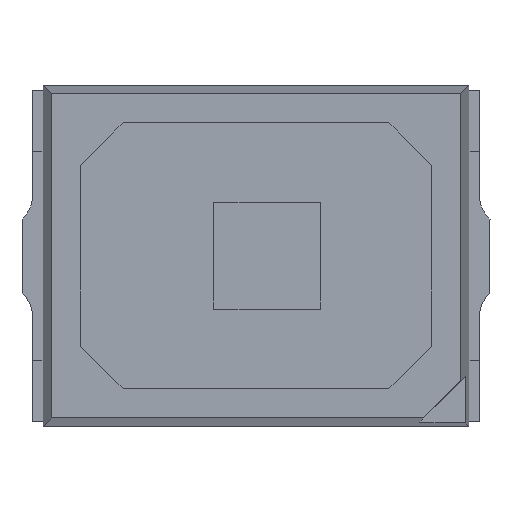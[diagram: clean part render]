
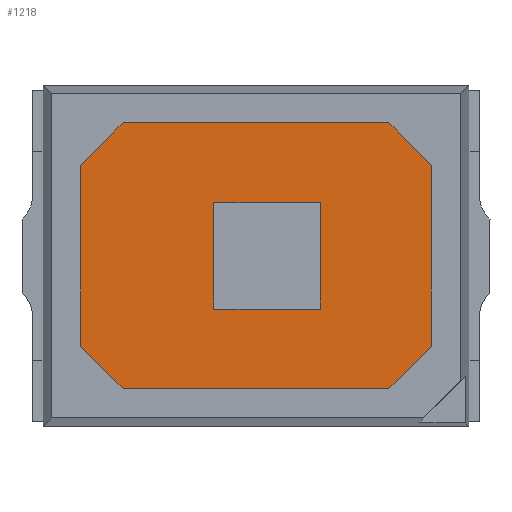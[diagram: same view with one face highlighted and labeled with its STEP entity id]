
A CAD part, top view. The second image highlights one B-rep face of the part: STEP entity #1218.
In plain terms, the highlighted planar face has unit normal (0, 0, 1).
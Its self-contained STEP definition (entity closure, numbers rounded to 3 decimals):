
#115 = FACE_BOUND ( 'NONE', #337, .T. ) ;
#219 = ORIENTED_EDGE ( 'NONE', *, *, #3087, .T. ) ;
#232 = CARTESIAN_POINT ( 'NONE',  ( 0.302, 0.25, 0.553 ) ) ;
#243 = CARTESIAN_POINT ( 'NONE',  ( -0.198, -0.25, 0.553 ) ) ;
#261 = CARTESIAN_POINT ( 'NONE',  ( 0.302, 0.25, 0.553 ) ) ;
#337 = EDGE_LOOP ( 'NONE', ( #4682, #1979, #3160, #6326 ) ) ;
#351 = VERTEX_POINT ( 'NONE', #524 ) ;
#381 = DIRECTION ( 'NONE',  ( -1., 0., 0. ) ) ;
#416 = VERTEX_POINT ( 'NONE', #5685 ) ;
#426 = CARTESIAN_POINT ( 'NONE',  ( -0.198, -0.25, 0.553 ) ) ;
#524 = CARTESIAN_POINT ( 'NONE',  ( -0.825, 0.425, 0.553 ) ) ;
#567 = DIRECTION ( 'NONE',  ( 1., 0., 0. ) ) ;
#686 = VECTOR ( 'NONE', #567, 1000. ) ;
#721 = VECTOR ( 'NONE', #5613, 1000. ) ;
#872 = CARTESIAN_POINT ( 'NONE',  ( -0.825, -0.425, 0.553 ) ) ;
#929 = EDGE_CURVE ( 'NONE', #5856, #3168, #3243, .T. ) ;
#945 = DIRECTION ( 'NONE',  ( 0., 1., 0. ) ) ;
#976 = LINE ( 'NONE', #2534, #4178 ) ;
#1003 = LINE ( 'NONE', #4641, #2887 ) ;
#1218 = ADVANCED_FACE ( 'NONE', ( #115, #6222 ), #2167, .T. ) ;
#1230 = ORIENTED_EDGE ( 'NONE', *, *, #4744, .T. ) ;
#1298 = ORIENTED_EDGE ( 'NONE', *, *, #2344, .T. ) ;
#1318 = LINE ( 'NONE', #6036, #2793 ) ;
#1352 = VECTOR ( 'NONE', #6320, 1000. ) ;
#1388 = VERTEX_POINT ( 'NONE', #4165 ) ;
#1392 = LINE ( 'NONE', #5534, #2355 ) ;
#1420 = DIRECTION ( 'NONE',  ( -0.707, -0.707, 0. ) ) ;
#1574 = CARTESIAN_POINT ( 'NONE',  ( 0.825, 0.425, 0.553 ) ) ;
#1579 = DIRECTION ( 'NONE',  ( -1., 0., 0. ) ) ;
#1635 = EDGE_CURVE ( 'NONE', #5566, #5230, #4444, .T. ) ;
#1636 = ORIENTED_EDGE ( 'NONE', *, *, #1635, .T. ) ;
#1917 = EDGE_CURVE ( 'NONE', #6123, #5856, #3814, .T. ) ;
#1955 = CARTESIAN_POINT ( 'NONE',  ( -0.625, 0.625, 0.553 ) ) ;
#1979 = ORIENTED_EDGE ( 'NONE', *, *, #1917, .F. ) ;
#2061 = DIRECTION ( 'NONE',  ( -0.707, 0.707, 0. ) ) ;
#2129 = DIRECTION ( 'NONE',  ( 0.707, 0.707, 0. ) ) ;
#2133 = ORIENTED_EDGE ( 'NONE', *, *, #2515, .T. ) ;
#2153 = ORIENTED_EDGE ( 'NONE', *, *, #5751, .T. ) ;
#2167 = PLANE ( 'NONE',  #5636 ) ;
#2344 = EDGE_CURVE ( 'NONE', #5719, #1388, #976, .T. ) ;
#2355 = VECTOR ( 'NONE', #1420, 1000. ) ;
#2356 = EDGE_CURVE ( 'NONE', #3168, #4390, #1003, .T. ) ;
#2479 = VECTOR ( 'NONE', #2129, 1000. ) ;
#2515 = EDGE_CURVE ( 'NONE', #1388, #416, #4086, .T. ) ;
#2534 = CARTESIAN_POINT ( 'NONE',  ( 0.825, -0.425, 0.553 ) ) ;
#2552 = VECTOR ( 'NONE', #4968, 1000. ) ;
#2793 = VECTOR ( 'NONE', #381, 1000. ) ;
#2864 = VERTEX_POINT ( 'NONE', #1955 ) ;
#2887 = VECTOR ( 'NONE', #3561, 1000. ) ;
#3076 = EDGE_CURVE ( 'NONE', #416, #2864, #1318, .T. ) ;
#3087 = EDGE_CURVE ( 'NONE', #2864, #351, #1392, .T. ) ;
#3160 = ORIENTED_EDGE ( 'NONE', *, *, #4093, .F. ) ;
#3168 = VERTEX_POINT ( 'NONE', #5711 ) ;
#3243 = LINE ( 'NONE', #5251, #3627 ) ;
#3561 = DIRECTION ( 'NONE',  ( 0., -1., 0. ) ) ;
#3605 = CARTESIAN_POINT ( 'NONE',  ( 0.825, -0.425, 0.553 ) ) ;
#3627 = VECTOR ( 'NONE', #1579, 1000. ) ;
#3721 = DIRECTION ( 'NONE',  ( 1., 0., 0. ) ) ;
#3792 = ORIENTED_EDGE ( 'NONE', *, *, #6482, .T. ) ;
#3814 = LINE ( 'NONE', #261, #1352 ) ;
#3821 = VERTEX_POINT ( 'NONE', #5243 ) ;
#4086 = LINE ( 'NONE', #1574, #4383 ) ;
#4093 = EDGE_CURVE ( 'NONE', #4390, #6123, #5017, .T. ) ;
#4109 = LINE ( 'NONE', #6110, #2479 ) ;
#4112 = DIRECTION ( 'NONE',  ( 0., -1., 0. ) ) ;
#4113 = EDGE_LOOP ( 'NONE', ( #219, #3792, #1636, #2153, #1230, #1298, #2133, #6288 ) ) ;
#4165 = CARTESIAN_POINT ( 'NONE',  ( 0.825, 0.425, 0.553 ) ) ;
#4178 = VECTOR ( 'NONE', #945, 1000. ) ;
#4202 = CARTESIAN_POINT ( 'NONE',  ( -0.625, -0.625, 0.553 ) ) ;
#4217 = CARTESIAN_POINT ( 'NONE',  ( 0., 0., 0.553 ) ) ;
#4383 = VECTOR ( 'NONE', #2061, 1000. ) ;
#4390 = VERTEX_POINT ( 'NONE', #243 ) ;
#4444 = LINE ( 'NONE', #872, #2552 ) ;
#4620 = CARTESIAN_POINT ( 'NONE',  ( -0.625, -0.625, 0.553 ) ) ;
#4641 = CARTESIAN_POINT ( 'NONE',  ( -0.198, 0.25, 0.553 ) ) ;
#4682 = ORIENTED_EDGE ( 'NONE', *, *, #929, .F. ) ;
#4744 = EDGE_CURVE ( 'NONE', #3821, #5719, #4109, .T. ) ;
#4907 = VECTOR ( 'NONE', #4112, 1000. ) ;
#4968 = DIRECTION ( 'NONE',  ( 0.707, -0.707, 0. ) ) ;
#5017 = LINE ( 'NONE', #426, #686 ) ;
#5026 = CARTESIAN_POINT ( 'NONE',  ( -0.825, 0.425, 0.553 ) ) ;
#5048 = CARTESIAN_POINT ( 'NONE',  ( -0.825, -0.425, 0.553 ) ) ;
#5114 = LINE ( 'NONE', #4620, #721 ) ;
#5230 = VERTEX_POINT ( 'NONE', #4202 ) ;
#5243 = CARTESIAN_POINT ( 'NONE',  ( 0.625, -0.625, 0.553 ) ) ;
#5251 = CARTESIAN_POINT ( 'NONE',  ( -0.198, 0.25, 0.553 ) ) ;
#5534 = CARTESIAN_POINT ( 'NONE',  ( -0.625, 0.625, 0.553 ) ) ;
#5555 = LINE ( 'NONE', #5026, #4907 ) ;
#5566 = VERTEX_POINT ( 'NONE', #5048 ) ;
#5613 = DIRECTION ( 'NONE',  ( 1., 0., 0. ) ) ;
#5636 = AXIS2_PLACEMENT_3D ( 'NONE', #4217, #6255, #3721 ) ;
#5685 = CARTESIAN_POINT ( 'NONE',  ( 0.625, 0.625, 0.553 ) ) ;
#5711 = CARTESIAN_POINT ( 'NONE',  ( -0.198, 0.25, 0.553 ) ) ;
#5719 = VERTEX_POINT ( 'NONE', #3605 ) ;
#5751 = EDGE_CURVE ( 'NONE', #5230, #3821, #5114, .T. ) ;
#5856 = VERTEX_POINT ( 'NONE', #232 ) ;
#6036 = CARTESIAN_POINT ( 'NONE',  ( 0.625, 0.625, 0.553 ) ) ;
#6110 = CARTESIAN_POINT ( 'NONE',  ( 0.625, -0.625, 0.553 ) ) ;
#6123 = VERTEX_POINT ( 'NONE', #6373 ) ;
#6222 = FACE_OUTER_BOUND ( 'NONE', #4113, .T. ) ;
#6255 = DIRECTION ( 'NONE',  ( 0., 0., 1. ) ) ;
#6288 = ORIENTED_EDGE ( 'NONE', *, *, #3076, .T. ) ;
#6320 = DIRECTION ( 'NONE',  ( 0., 1., 0. ) ) ;
#6326 = ORIENTED_EDGE ( 'NONE', *, *, #2356, .F. ) ;
#6373 = CARTESIAN_POINT ( 'NONE',  ( 0.302, -0.25, 0.553 ) ) ;
#6482 = EDGE_CURVE ( 'NONE', #351, #5566, #5555, .T. ) ;
